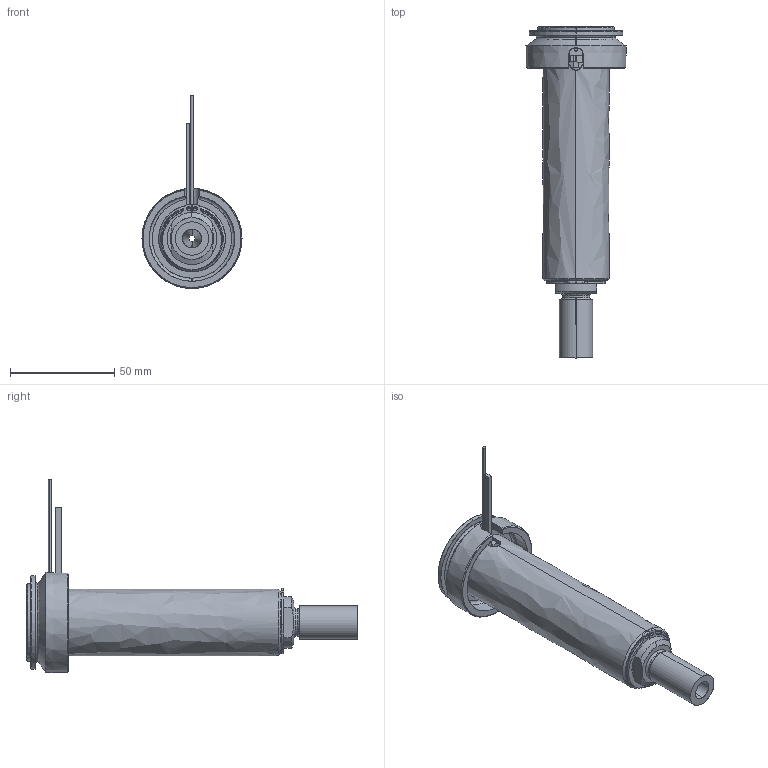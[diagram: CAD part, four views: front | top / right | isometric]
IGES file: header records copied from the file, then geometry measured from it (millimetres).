
Start section: SolidWorks IGES file using analytic representation for surfaces
Global section: file name: C:\Documents and Settings\ws-20\Desktop\TEMPORANEA\UGBE5003-M-A-P-5 [Ød-3.0 P-25 ØC-12].IGS; native system: SolidWorks 2012; preprocessor: SolidWorks 2012; author: ws-20; date: 120306.145529; units: millimetre
Bounding box: 48 x 159.25 x 92.62 mm (x, y, z)
Surface area: 51552.5 mm2 (no closed solid volume)
Topology: 0 solids, 0 shells, 110 faces, 2092 edges, 2092 vertices
Faces by surface type: revolution 62, bspline 48
